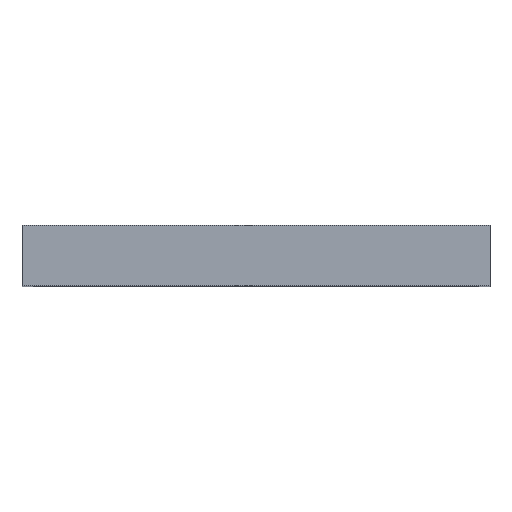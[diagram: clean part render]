
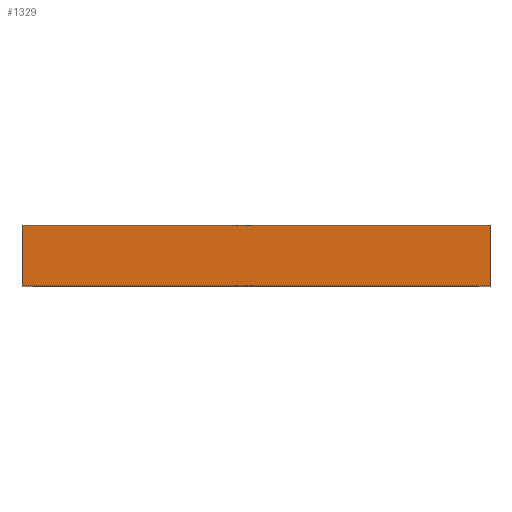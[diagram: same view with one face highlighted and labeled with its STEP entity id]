
A CAD part, top view. The second image highlights one B-rep face of the part: STEP entity #1329.
In plain terms, the highlighted planar face has unit normal (0, 0, 1).
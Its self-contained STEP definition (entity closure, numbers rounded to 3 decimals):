
#78 = ORIENTED_EDGE ( 'NONE', *, *, #739, .T. ) ;
#119 = ORIENTED_EDGE ( 'NONE', *, *, #742, .F. ) ;
#133 = ORIENTED_EDGE ( 'NONE', *, *, #731, .F. ) ;
#147 = ORIENTED_EDGE ( 'NONE', *, *, #746, .T. ) ;
#191 = VERTEX_POINT ( 'NONE', #260 ) ;
#193 = VERTEX_POINT ( 'NONE', #262 ) ;
#203 = VERTEX_POINT ( 'NONE', #272 ) ;
#217 = VERTEX_POINT ( 'NONE', #286 ) ;
#260 = CARTESIAN_POINT ( 'NONE',  ( -251., 0., 264.5 ) ) ;
#262 = CARTESIAN_POINT ( 'NONE',  ( 251., 0., 264.5 ) ) ;
#272 = CARTESIAN_POINT ( 'NONE',  ( 251., 65., 264.5 ) ) ;
#286 = CARTESIAN_POINT ( 'NONE',  ( -251., 65., 264.5 ) ) ;
#320 = CARTESIAN_POINT ( 'NONE',  ( -251., 65., 264.5 ) ) ;
#329 = DIRECTION ( 'NONE',  ( 1., 0., 0. ) ) ;
#342 = CARTESIAN_POINT ( 'NONE',  ( -251., 0., 264.5 ) ) ;
#345 = DIRECTION ( 'NONE',  ( 1., 0., 0. ) ) ;
#348 = CARTESIAN_POINT ( 'NONE',  ( 251., 65., 264.5 ) ) ;
#351 = DIRECTION ( 'NONE',  ( 0., -1., 0. ) ) ;
#358 = CARTESIAN_POINT ( 'NONE',  ( -251., 65., 264.5 ) ) ;
#359 = DIRECTION ( 'NONE',  ( 0., -1., 0. ) ) ;
#584 = PLANE ( 'NONE',  #849 ) ;
#596 = CARTESIAN_POINT ( 'NONE',  ( -251., 65., 264.5 ) ) ;
#602 = DIRECTION ( 'NONE',  ( 0., 0., -1. ) ) ;
#603 = DIRECTION ( 'NONE',  ( -1., 0., 0. ) ) ;
#731 = EDGE_CURVE ( 'NONE', #217, #203, #1008, .T. ) ;
#739 = EDGE_CURVE ( 'NONE', #191, #193, #1032, .T. ) ;
#742 = EDGE_CURVE ( 'NONE', #203, #193, #1040, .T. ) ;
#746 = EDGE_CURVE ( 'NONE', #217, #191, #1053, .T. ) ;
#849 = AXIS2_PLACEMENT_3D ( 'NONE', #596, #602, #603 ) ;
#955 = EDGE_LOOP ( 'NONE', ( #78, #119, #133, #147 ) ) ;
#1008 = LINE ( 'NONE', #320, #1023 ) ;
#1023 = VECTOR ( 'NONE', #329, 1000. ) ;
#1032 = LINE ( 'NONE', #342, #1039 ) ;
#1039 = VECTOR ( 'NONE', #345, 1000. ) ;
#1040 = LINE ( 'NONE', #348, #1045 ) ;
#1045 = VECTOR ( 'NONE', #351, 1000. ) ;
#1053 = LINE ( 'NONE', #358, #1054 ) ;
#1054 = VECTOR ( 'NONE', #359, 1000. ) ;
#1233 = FACE_OUTER_BOUND ( 'NONE', #955, .T. ) ;
#1329 = ADVANCED_FACE ( 'NONE', ( #1233 ), #584, .F. ) ;
